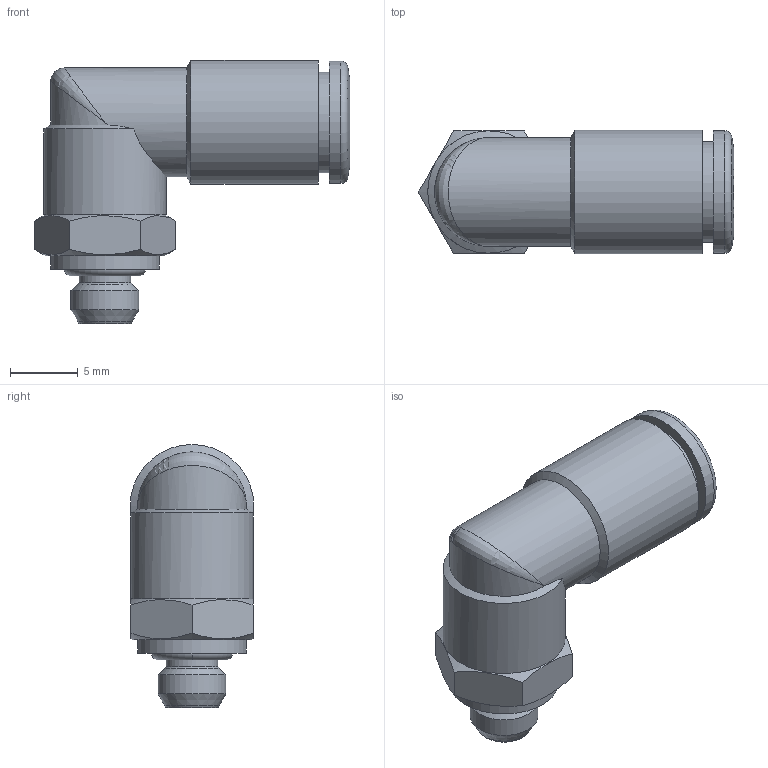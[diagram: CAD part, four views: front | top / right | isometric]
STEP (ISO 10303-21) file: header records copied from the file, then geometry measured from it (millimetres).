
FILE_DESCRIPTION(('Bauteilbeschreibung','HiCAD-Model','HiCAD-STEP-TRANSLATION','Bauteilbeschreibung'),'2;1');
FILE_NAME('B:/ABGLEICH/ZEICHNUNGEN/STEP FÜR INTERNET/STEP/202200_IPSO_022_4_M5.STP','2011-09-15T08:58:42+00:00',('Konstrukteur'),('Konstrukteur Firma GmbH'),' HiCAD neXt 2008, Step 3.1.1401.2J ','HiCAD neXt 2008','confidential');
FILE_SCHEMA(('AUTOMOTIVE_DESIGN { 1 2 10303 214 0 1 1 1 }'));
Length unit declared in the file: millimetre
Products named in the file (7): A02200_IPSO_022_4_M5; OR 4X1_2; DR4_1_NEU; A14601_N2; A146010N2; DIN 13_M5; R202200_N2
Assembly tree (6 placements, depth 3):
  A02200_IPSO_022_4_M5
    OR 4X1_2
    DR4_1_NEU
    A14601_N2
    A146010N2
      DIN 13_M5
    R202200_N2
Bounding box: 23.2 x 9.1 x 19.35 mm (x, y, z)
Volume: 1270.2 mm3; surface area: 2203.8 mm2
Topology: 5 solids, 5 shells, 74 faces, 169 edges, 105 vertices
Faces by surface type: cylinder 24, cone 22, plane 20, torus 7, bspline 1
Full cylindrical faces by diameter (mm): 2.6 x1, 3.8 x1, 4.019 x2, 4.1 x2, 5 x1, 6 x1, 6.4 x1, 6.8 x2, 7.3 x1, 7.4 x1, 7.6 x1, 7.85 x1, 7.9 x1, 8 x2, 9 x2, 9.1 x1
Entity records: 3369 total; most frequent: CARTESIAN_POINT 1396, DIRECTION 318, ORIENTED_EDGE 208, AXIS2_PLACEMENT_3D 155, EDGE_LOOP 130, EDGE_CURVE 104, COLOUR_RGB 89, PRESENTATION_STYLE_ASSIGNMENT 89
